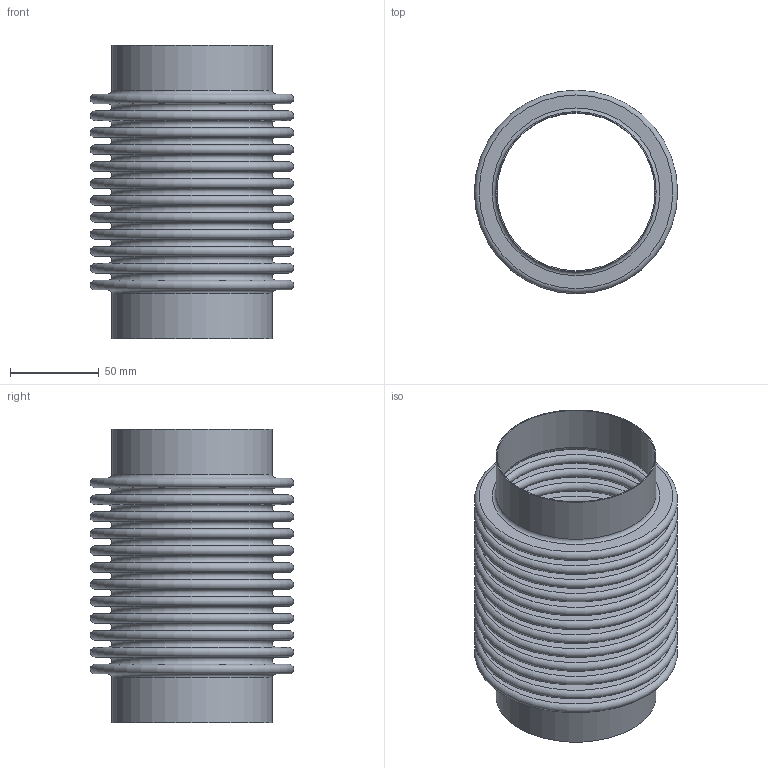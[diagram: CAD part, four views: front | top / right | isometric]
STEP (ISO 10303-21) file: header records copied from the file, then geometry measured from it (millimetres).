
FILE_DESCRIPTION(/* description */ (''),/* implementation_level */ '2;1');
FILE_NAME(/* name */ 'US-3-12-85L.stp',/* time_stamp */ '2026-07-21T11:09:18-05:00',/* author */ ('linda'),/* organization */ (''),/* preprocessor_version */ 'ST-DEVELOPER v20.1',/* originating_system */ 'Autodesk Inventor 2026',/* authorisation */ '');
FILE_SCHEMA (('AUTOMOTIVE_DESIGN { 1 0 10303 214 3 1 1 }'));
Length unit declared in the file: inch
Products named in the file (1): Part3
Bounding box: 114.3 x 114.3 x 165.1 mm (x, y, z)
Volume: 77862.7 mm3; surface area: 256483.4 mm2
Topology: 3 solids, 3 shells, 108 faces, 162 edges, 109 vertices
Faces by surface type: plane 54, torus 50, cylinder 4
Full cylindrical faces by diameter (mm): 88.9 x2, 90.119 x2
Entity records: 2667 total; most frequent: DIRECTION 538, CARTESIAN_POINT 380, ORIENTED_EDGE 324, AXIS2_PLACEMENT_3D 267, EDGE_LOOP 162, EDGE_CURVE 162, CIRCLE 158, STYLED_ITEM 111
